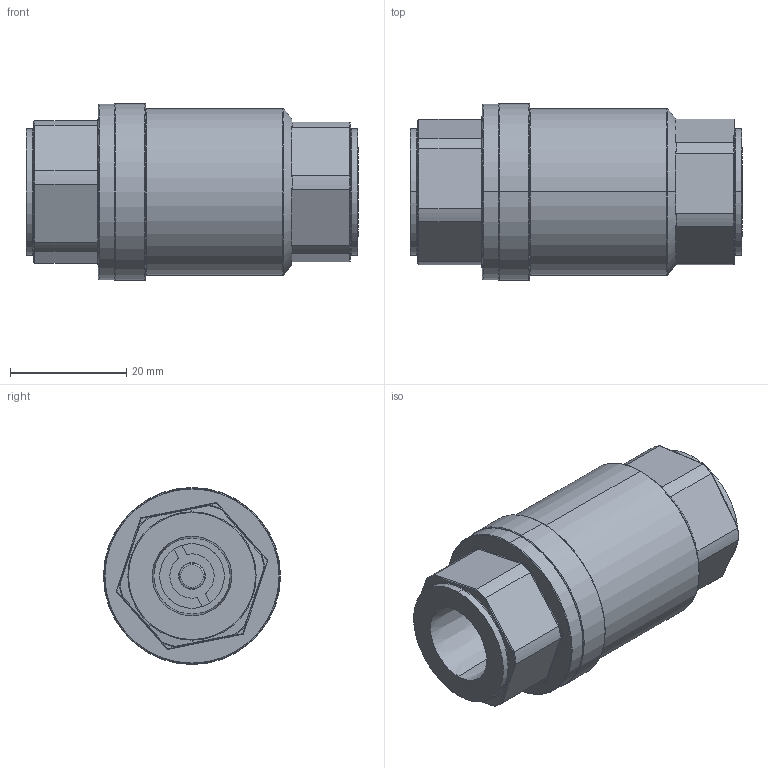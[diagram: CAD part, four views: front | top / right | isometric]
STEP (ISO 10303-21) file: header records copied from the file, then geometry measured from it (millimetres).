
FILE_DESCRIPTION (( 'STEP AP203' ), '1' );
FILE_NAME ('SCI-2.STEP', '2022-09-13T21:22:24', ( '' ), ( '' ), 'SwSTEP 2.0', 'SolidWorks 2021', '' );
FILE_SCHEMA (( 'CONFIG_CONTROL_DESIGN' ));
Length unit declared in the file: inch
Products named in the file (5): SCI-2-SEAT; SCI-2-POPPET; SCI-2-SPRING; SCI-2; SCI-2-BODY
Assembly tree (4 placements, depth 2):
  SCI-2
    SCI-2-BODY
    SCI-2-POPPET
    SCI-2-SEAT
    SCI-2-SPRING
Bounding box: 57.15 x 30.48 x 30.48 mm (x, y, z)
Volume: 17732.6 mm3; surface area: 11549.4 mm2
Topology: 4 solids, 4 shells, 181 faces, 464 edges, 298 vertices
Faces by surface type: cylinder 67, plane 46, torus 36, cone 18, bspline 14
Entity records: 8835 total; most frequent: CARTESIAN_POINT 3956, ORIENTED_EDGE 926, DIRECTION 925, EDGE_CURVE 463, AXIS2_PLACEMENT_3D 384, VERTEX_POINT 296, CIRCLE 210, EDGE_LOOP 199
